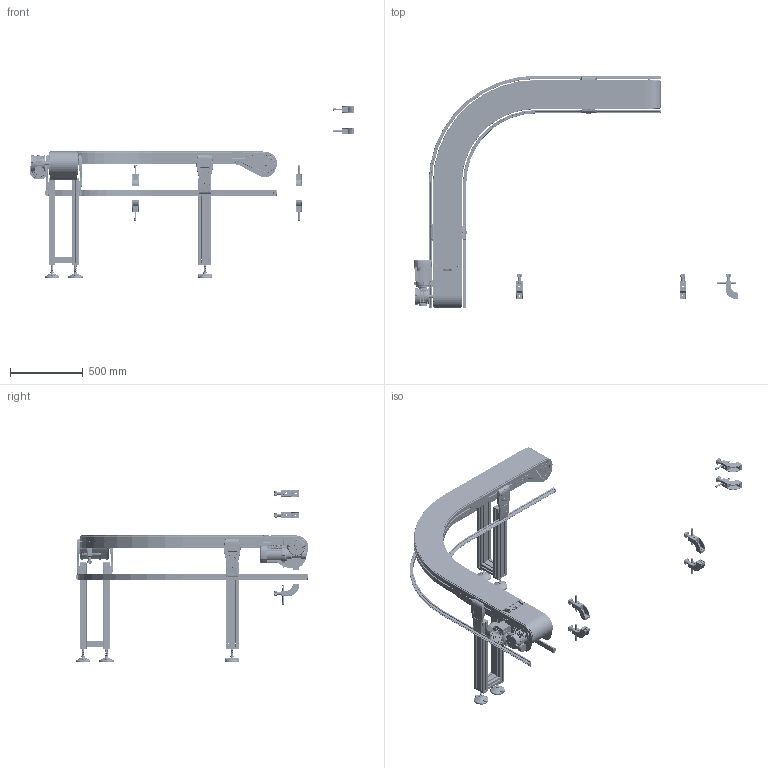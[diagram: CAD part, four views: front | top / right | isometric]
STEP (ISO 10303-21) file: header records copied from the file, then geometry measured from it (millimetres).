
FILE_DESCRIPTION (( 'STEP AP203' ), '1' );
FILE_NAME ('NASTRO_2010.step', '2026-04-30T07:25:39', ( 'Utente Windows' ), ( '' ), 'SwSTEP 2.0', 'SolidWorks 2024', '' );
FILE_SCHEMA (( 'CONFIG_CONTROL_DESIGN' ));
Length unit declared in the file: millimetre
Products named in the file (95): Circlip DIN 471 - 20 x 1.2_Circlip DIN 471 - 20 x 1.2; 2010.000.144; K750_1_Default<A macchina>; 2010.000.006; 084.402.005; 2010.000.008_Default<A macchina>; 2010.000.016; 0612UNI5933; 2010.000.031_Default<A macchina>; 2010.750.P.1B49.BR; 2010.000.005; SUPPORTO_SPONDA; CHIAVETTE_A 8x7x30 UNI 6604-69; VITI TE UNI 5739_M8x20 UNI 5739; 25UNI7435-A2; 2010.000.072_L_Default<A macchina>; 2010.000.007; 2000.879.325B; 2010.750.P.490_DX; 2010.000.015; 084.111.001 L140_Default<A macchina>; 084.405.001; RONDELLE UNI 6592_8.4x17 UNI 6592; 0820UNI5739-A2; PIEDE_K750; K750_2_Default<A macchina>; 084.201.019-2; 2010.000.002; 2010.000.033; FLANGIA_GAMBA_95_CON GIUNTI; 6205_2RS_SFERA; 084.711.004; 084.302.000 DADI ALUSIC 13x13-1_084.302.004; 0408UNI7380-A2; 084.302.000 DADI ALUSIC 13x13 SX_084.302.004; 2010.000.014; 084.301.000 VITI ALUSIC_084.301.004; 6205_2RS_BOMB_AE_AF0; 2010.000.073; NASTRO_2010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
Assembly tree (336 placements, depth 4):
  NASTRO_2010
    K750_1_Default<A macchina>
    K750_2_Default<A macchina>
    2010.750.P.1B49.BR
      2010.000.003
      2010.000.004
      2010.000.027
      084.808.013
      2010.000.048
      2010.000.010_Default<A macchina>
      0408UNI5933-A2  x18
      2010.000.007
      0408UNI7380-A2  x8
      084.307.006  x2
        084.307.006
        0814UNI5923-A2
      0816UNI7380-A2  x6
      2010.000.016
      2010.000.011
      2010.000.026  x4
      084.802.062
      0820ISO2342-A2
      55401
        TO_1
      084.301.000 VITI ALUSIC_084.301.004  x4
      084.302.000 DADI ALUSIC 13x13 SX_084.302.004  x4
      084.803.017
      0612UNI5931-A2  x4
      2010.000.033
      2010.000.032_Default<A macchina>
      2010.000.014
      2010.000.005  x2
      0832UNI6593-A2
      0820UNI5739-A2
      CHIAVETTE_A 8x7x20 UNI 6604-69  x2
      CHIAVETTE_A 8x7x30 UNI 6604-69
      0612UNI5739-A2  x4
      25UNI7435-A2  x5
      6205-2RSBOMB  x2
        6205_2RS_AI_AF0
        6205_2RS_CAGE
        6205_2RS_BOMB_AE_AF0
        6205_2RS_SFERA
        6205_2RS_SEAL
      PFL205-SUPPORTO  x4
      0812UNI5739-A2  x4
    2010.750.P.490_DX
      2010.000.143
      2010.000.144
      084.307.006  x4
        084.307.006
        0814UNI5923-A2
      2010.000.145_2000.1200.404  x2
      VITI TCEI UNI 5931_M8x16 UNI 5931
      084.305.041  x10
      084.111.001 L140_Default<A macchina>  x5
      0612UNI5933  x20
      VITI TCEI UNI 5931_M8x20 UNI 5931  x19
      084.302.000 DADI MOLLA 13x13-1_084.302.009  x20
    2010.750.P.200
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Bounding box: 2230.7 x 1601.6 x 1181.67 mm (x, y, z)
Volume: 29598953.1 mm3; surface area: 12433161.3 mm2
Topology: 547 solids, 547 shells, 28930 faces, 73400 edges, 45833 vertices
Faces by surface type: plane 12617, cylinder 8073, bspline 3053, cone 2745, torus 1782, sphere 660
Entity records: 550162 total; most frequent: CARTESIAN_POINT 206358, ORIENTED_EDGE 71710, DIRECTION 64766, EDGE_CURVE 35855, AXIS2_PLACEMENT_3D 23390, VERTEX_POINT 22443, LINE 17986, VECTOR 17986
